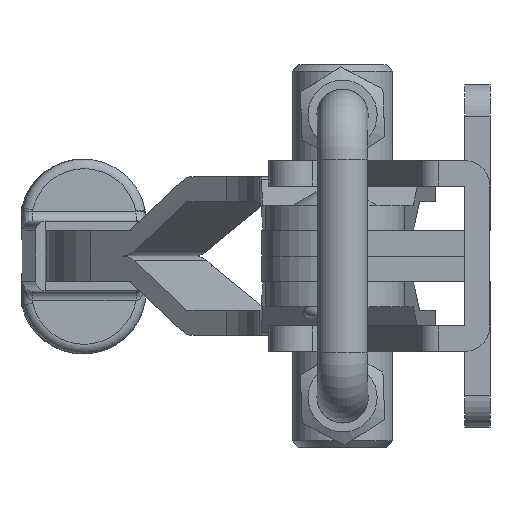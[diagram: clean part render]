
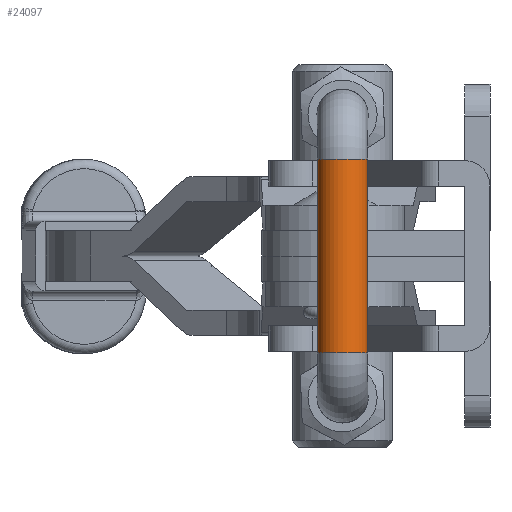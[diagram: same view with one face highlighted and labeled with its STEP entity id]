
A CAD part, left-side view. The second image highlights one B-rep face of the part: STEP entity #24097.
In plain terms, the highlighted cylindrical face has radius 4 mm (diameter 8 mm), a full revolution.
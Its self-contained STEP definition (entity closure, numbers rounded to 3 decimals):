
#3170=FACE_OUTER_BOUND('',#4609,.T.);
#4609=EDGE_LOOP('',(#21939,#21940,#21941,#21942,#21943,#21944,#21945,#21946));
#6540=LINE('',#56735,#8461);
#8461=VECTOR('',#32730,4.);
#9419=CIRCLE('',#26458,4.);
#9420=CIRCLE('',#26459,4.);
#9421=CIRCLE('',#26460,4.);
#9422=CIRCLE('',#26462,4.);
#9423=CIRCLE('',#26463,4.);
#9425=CIRCLE('',#26465,4.);
#11604=VERTEX_POINT('',#56562);
#11605=VERTEX_POINT('',#56564);
#11606=VERTEX_POINT('',#56566);
#11607=VERTEX_POINT('',#56570);
#11608=VERTEX_POINT('',#56571);
#11609=VERTEX_POINT('',#56573);
#15123=EDGE_CURVE('',#11604,#11605,#9419,.T.);
#15124=EDGE_CURVE('',#11605,#11606,#9420,.T.);
#15125=EDGE_CURVE('',#11606,#11604,#9421,.T.);
#15126=EDGE_CURVE('',#11607,#11608,#9422,.T.);
#15127=EDGE_CURVE('',#11609,#11607,#9423,.T.);
#15129=EDGE_CURVE('',#11608,#11609,#9425,.T.);
#15141=EDGE_CURVE('',#11606,#11608,#6540,.T.);
#21939=ORIENTED_EDGE('',*,*,#15124,.F.);
#21940=ORIENTED_EDGE('',*,*,#15123,.F.);
#21941=ORIENTED_EDGE('',*,*,#15125,.F.);
#21942=ORIENTED_EDGE('',*,*,#15141,.T.);
#21943=ORIENTED_EDGE('',*,*,#15129,.T.);
#21944=ORIENTED_EDGE('',*,*,#15127,.T.);
#21945=ORIENTED_EDGE('',*,*,#15126,.T.);
#21946=ORIENTED_EDGE('',*,*,#15141,.F.);
#22738=CYLINDRICAL_SURFACE('',#26472,4.);
#24097=ADVANCED_FACE('',(#3170),#22738,.T.);
#26458=AXIS2_PLACEMENT_3D('',#56565,#32699,#32700);
#26459=AXIS2_PLACEMENT_3D('',#56567,#32701,#32702);
#26460=AXIS2_PLACEMENT_3D('',#56568,#32703,#32704);
#26462=AXIS2_PLACEMENT_3D('',#56572,#32707,#32708);
#26463=AXIS2_PLACEMENT_3D('',#56574,#32709,#32710);
#26465=AXIS2_PLACEMENT_3D('',#56576,#32713,#32714);
#26472=AXIS2_PLACEMENT_3D('',#56734,#32728,#32729);
#32699=DIRECTION('center_axis',(0.,1.,0.));
#32700=DIRECTION('ref_axis',(0.,0.,-1.));
#32701=DIRECTION('center_axis',(0.,1.,0.));
#32702=DIRECTION('ref_axis',(0.,0.,-1.));
#32703=DIRECTION('center_axis',(0.,1.,0.));
#32704=DIRECTION('ref_axis',(0.,0.,-1.));
#32707=DIRECTION('center_axis',(0.,1.,0.));
#32708=DIRECTION('ref_axis',(0.,0.,-1.));
#32709=DIRECTION('center_axis',(0.,1.,0.));
#32710=DIRECTION('ref_axis',(0.,0.,-1.));
#32713=DIRECTION('center_axis',(0.,1.,0.));
#32714=DIRECTION('ref_axis',(0.,0.,-1.));
#32728=DIRECTION('center_axis',(0.,1.,0.));
#32729=DIRECTION('ref_axis',(0.,0.,1.));
#32730=DIRECTION('',(0.,-1.,0.));
#56562=CARTESIAN_POINT('',(107.,37.5,0.));
#56564=CARTESIAN_POINT('',(111.,37.5,4.));
#56565=CARTESIAN_POINT('Origin',(111.,37.5,0.));
#56566=CARTESIAN_POINT('',(111.,37.5,-4.));
#56567=CARTESIAN_POINT('Origin',(111.,37.5,0.));
#56568=CARTESIAN_POINT('Origin',(111.,37.5,0.));
#56570=CARTESIAN_POINT('',(111.,7.,4.));
#56571=CARTESIAN_POINT('',(111.,7.,-4.));
#56572=CARTESIAN_POINT('Origin',(111.,7.,0.));
#56573=CARTESIAN_POINT('',(107.,7.,0.));
#56574=CARTESIAN_POINT('Origin',(111.,7.,0.));
#56576=CARTESIAN_POINT('Origin',(111.,7.,0.));
#56734=CARTESIAN_POINT('Origin',(111.,7.,0.));
#56735=CARTESIAN_POINT('',(111.,7.,-4.));
